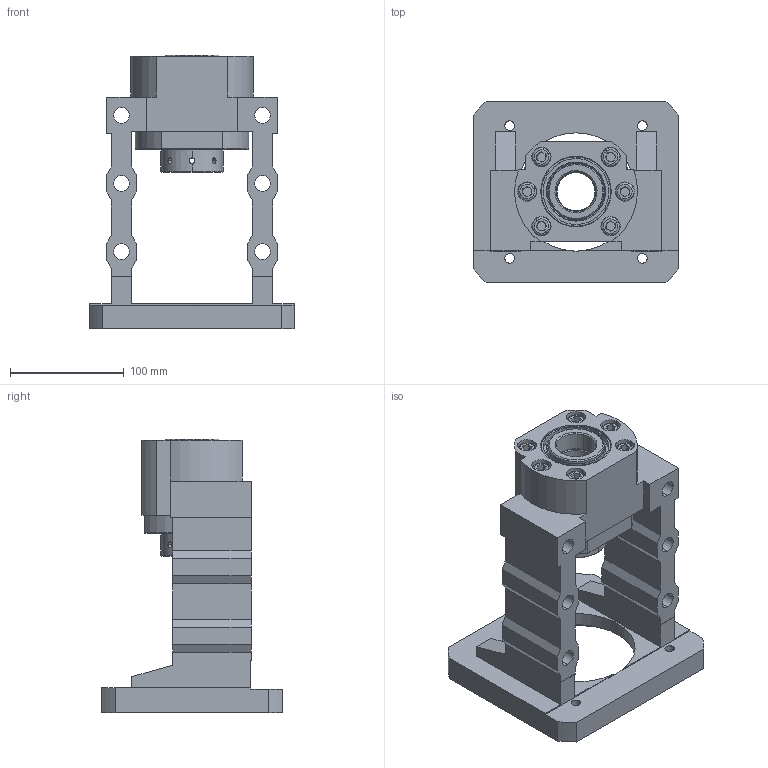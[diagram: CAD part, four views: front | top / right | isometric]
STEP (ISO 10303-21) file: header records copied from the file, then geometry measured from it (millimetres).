
FILE_DESCRIPTION (( 'STEP AP203' ), '1' );
FILE_NAME ('MBCK35-I²Õ¦X¥ó.STEP', '2024-09-03T02:32:29', ( '' ), ( '' ), 'SwSTEP 2.0', 'SolidWorks 2018', '' );
FILE_SCHEMA (( 'CONFIG_CONTROL_DESIGN' ));
Length unit declared in the file: millimetre
Products named in the file (1): MBCK35-I組合件
Bounding box: 180 x 160 x 241 mm (x, y, z)
Surface area: 231649.4 mm2 (no closed solid volume)
Topology: 0 solids, 23 shells, 345 faces, 983 edges, 649 vertices
Faces by surface type: plane 133, cylinder 116, cone 64, torus 20, bspline 12
Entity records: 30335 total; most frequent: CARTESIAN_POINT 21356, DIRECTION 1886, ORIENTED_EDGE 1722, EDGE_CURVE 975, AXIS2_PLACEMENT_3D 705, VERTEX_POINT 649, LINE 476, VECTOR 476
